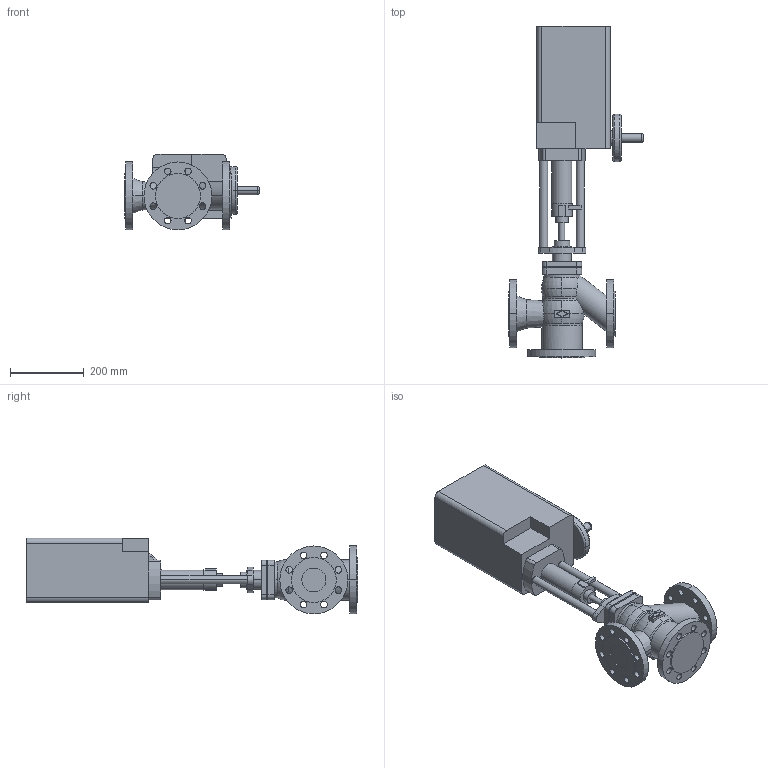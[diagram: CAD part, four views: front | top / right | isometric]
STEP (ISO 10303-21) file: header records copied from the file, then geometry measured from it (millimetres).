
FILE_DESCRIPTION(('OneSpaceDesigner STEP Export'),'2;1');
FILE_NAME('c000002411.stp','2006-09-19T12:07:47',(''),(''),'OneSpace Designer STEP processor for AP214 (Solid Model)','OneSpace Designer 13.20A 18-Aug-2005 (C) CoCreate Software GmbH','');
FILE_SCHEMA(('AUTOMOTIVE_DESIGN { 1 0 10303 214 1 1 1 1 }'));
Length unit declared in the file: millimetre
Products named in the file (2): 1; 2
Bounding box: 366.6 x 903 x 206.5 mm (x, y, z)
Volume: 17521765.2 mm3; surface area: 782003.9 mm2
Topology: 2 solids, 2 shells, 236 faces, 600 edges, 397 vertices
Faces by surface type: cylinder 118, plane 90, torus 24, cone 4
Entity records: 6543 total; most frequent: CARTESIAN_POINT 1232, ORIENTED_EDGE 1200, DIRECTION 961, EDGE_CURVE 600, VERTEX_POINT 397, AXIS2_PLACEMENT_3D 348, EDGE_LOOP 313, VECTOR 265
